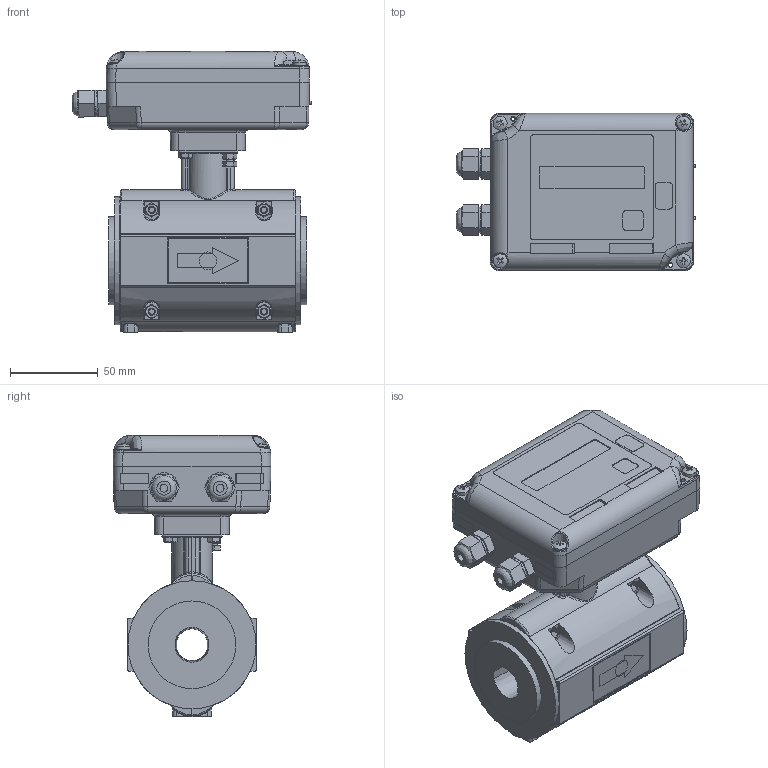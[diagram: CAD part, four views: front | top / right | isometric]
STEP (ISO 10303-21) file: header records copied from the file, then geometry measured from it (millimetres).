
FILE_DESCRIPTION(('STEP AP242'), '1');
FILE_NAME('1_ØÊÑÄ.407212.032-003 Ðàñõîäîìåð-ñ÷¸ò÷èê ýëåêòðîìàãíèòíûé Âçë¸ò èñïîëíåíèå Ëàéò Ì', '', ('UNSPECIFIED'), ('UNSPECIFIED'), 'ASCON STEP Converter 1.6', 'ASCON Math Kernel', '');
FILE_SCHEMA(('AP242_MANAGED_MODEL_BASED_3D_ENGINEERING_MIM_LF { 1 0 10303 442 1 1 4 }'));
Length unit declared in the file: millimetre
Products named in the file (1): 婽挭.407212.032-003.03-003.04
Bounding box: 136.5 x 90 x 160.4 mm (x, y, z)
Volume: 372362.2 mm3; surface area: 224544.3 mm2
Topology: 58 solids, 58 shells, 2463 faces, 5922 edges, 3615 vertices
Faces by surface type: plane 949, cylinder 688, bspline 321, cone 299, torus 160, sphere 46
Full cylindrical faces by diameter (mm): 2 x4, 2.3 x9, 2.4 x2, 3 x4, 3.242 x13, 3.422 x4, 3.6 x2, 4 x44, 4.3 x8, 4.5 x20, 5 x2, 5.5 x8, 6 x2, 7 x18, 7.5 x4, 7.65 x1, 8 x7, 9 x7, 10 x1, 12 x6, 12.2 x2, 12.5 x2, 15 x2, 16.5 x2, 17 x1, 18 x1, 50 x2, 64 x2, 67 x2, 68 x4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
Entity records: 167869 total; most frequent: CARTESIAN_POINT 96648, ORIENTED_EDGE 10746, DIRECTION 9227, EDGE_CURVE 5373, VERTEX_POINT 3573, AXIS2_PLACEMENT_3D 3523, EDGE_LOOP 3156, COLOUR_RGB 2521
